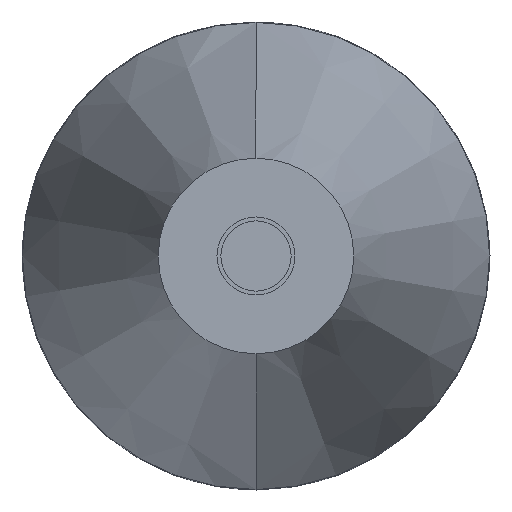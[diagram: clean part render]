
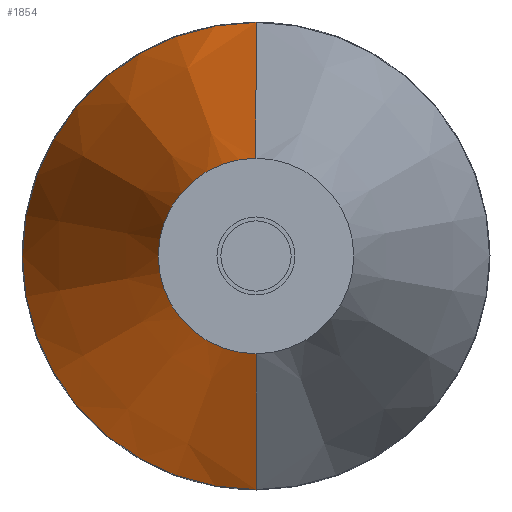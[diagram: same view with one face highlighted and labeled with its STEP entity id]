
A CAD part, front view. The second image highlights one B-rep face of the part: STEP entity #1854.
In plain terms, the highlighted conical face has half-angle 15 degrees and reference radius 2.995 mm.
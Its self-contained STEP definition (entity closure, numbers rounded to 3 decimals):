
#63 = VERTEX_POINT ( 'NONE', #703 ) ;
#135 = EDGE_CURVE ( 'NONE', #1872, #63, #739, .T. ) ;
#168 = EDGE_CURVE ( 'NONE', #566, #1872, #2204, .T. ) ;
#286 = LINE ( 'NONE', #726, #1302 ) ;
#291 = DIRECTION ( 'NONE',  ( 0., 0., -1. ) ) ;
#340 = CARTESIAN_POINT ( 'NONE',  ( 0., -10., 2.995 ) ) ;
#399 = EDGE_CURVE ( 'NONE', #566, #905, #286, .T. ) ;
#452 = DIRECTION ( 'NONE',  ( 0., -1., 0. ) ) ;
#545 = EDGE_CURVE ( 'NONE', #905, #63, #1923, .T. ) ;
#566 = VERTEX_POINT ( 'NONE', #1963 ) ;
#703 = CARTESIAN_POINT ( 'NONE',  ( 0., -10., -2.995 ) ) ;
#726 = CARTESIAN_POINT ( 'NONE',  ( 0., -10., 2.995 ) ) ;
#739 = LINE ( 'NONE', #1429, #2039 ) ;
#743 = AXIS2_PLACEMENT_3D ( 'NONE', #1817, #2153, #803 ) ;
#749 = FACE_OUTER_BOUND ( 'NONE', #1401, .T. ) ;
#803 = DIRECTION ( 'NONE',  ( 0., 0., -1. ) ) ;
#853 = ORIENTED_EDGE ( 'NONE', *, *, #135, .F. ) ;
#875 = ORIENTED_EDGE ( 'NONE', *, *, #168, .F. ) ;
#905 = VERTEX_POINT ( 'NONE', #340 ) ;
#996 = DIRECTION ( 'NONE',  ( 0., 1., 0. ) ) ;
#1157 = CARTESIAN_POINT ( 'NONE',  ( 0., -10., 0. ) ) ;
#1288 = DIRECTION ( 'NONE',  ( 0., 0., -1. ) ) ;
#1302 = VECTOR ( 'NONE', #2169, 1000. ) ;
#1313 = AXIS2_PLACEMENT_3D ( 'NONE', #1157, #996, #291 ) ;
#1316 = CARTESIAN_POINT ( 'NONE',  ( 0., -10., 0. ) ) ;
#1401 = EDGE_LOOP ( 'NONE', ( #875, #2157, #1521, #853 ) ) ;
#1429 = CARTESIAN_POINT ( 'NONE',  ( 0., -10., -2.995 ) ) ;
#1521 = ORIENTED_EDGE ( 'NONE', *, *, #545, .T. ) ;
#1817 = CARTESIAN_POINT ( 'NONE',  ( 0., -16.5, 0. ) ) ;
#1854 = ADVANCED_FACE ( 'NONE', ( #749 ), #1906, .T. ) ;
#1867 = CARTESIAN_POINT ( 'NONE',  ( 0., -16.5, -1.253 ) ) ;
#1872 = VERTEX_POINT ( 'NONE', #1867 ) ;
#1906 = CONICAL_SURFACE ( 'NONE', #1313, 2.995, 0.262 ) ;
#1923 = CIRCLE ( 'NONE', #1926, 2.995 ) ;
#1926 = AXIS2_PLACEMENT_3D ( 'NONE', #1316, #452, #1288 ) ;
#1943 = DIRECTION ( 'NONE',  ( 0., 0.966, -0.259 ) ) ;
#1963 = CARTESIAN_POINT ( 'NONE',  ( 0., -16.5, 1.253 ) ) ;
#2039 = VECTOR ( 'NONE', #1943, 1000. ) ;
#2153 = DIRECTION ( 'NONE',  ( 0., -1., 0. ) ) ;
#2157 = ORIENTED_EDGE ( 'NONE', *, *, #399, .T. ) ;
#2169 = DIRECTION ( 'NONE',  ( 0., 0.966, 0.259 ) ) ;
#2204 = CIRCLE ( 'NONE', #743, 1.253 ) ;
